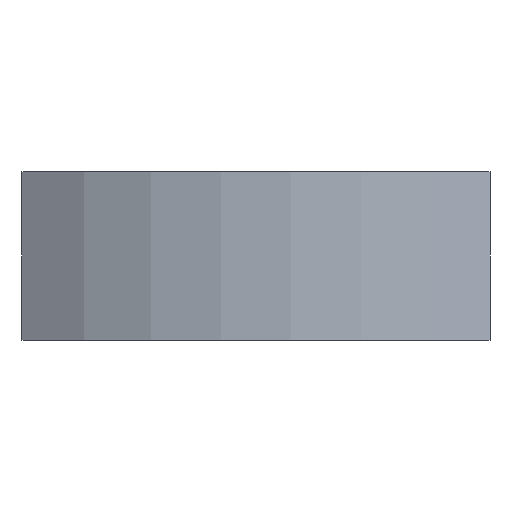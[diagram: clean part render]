
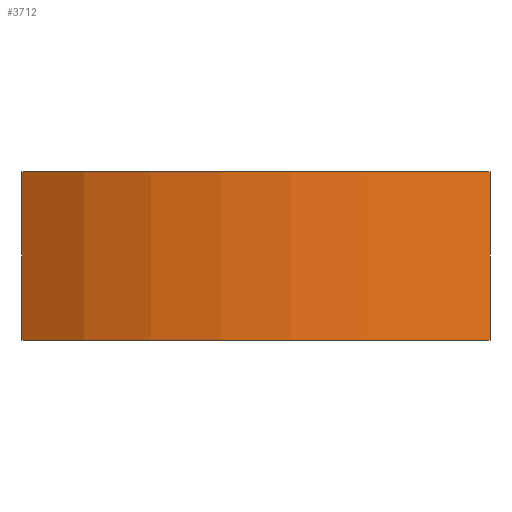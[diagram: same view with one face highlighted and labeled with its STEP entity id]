
A CAD part, left-side view. The second image highlights one B-rep face of the part: STEP entity #3712.
In plain terms, the highlighted cylindrical face has radius 22.5 mm (diameter 45 mm), a partial arc.
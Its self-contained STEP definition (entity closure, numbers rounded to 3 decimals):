
#14=CYLINDRICAL_SURFACE('',#3868,22.5);
#125=CIRCLE('',#3859,22.5);
#129=CIRCLE('',#3869,22.5);
#329=FACE_OUTER_BOUND('',#553,.T.);
#553=EDGE_LOOP('',(#3340,#3341,#3342,#3343));
#922=LINE('',#6629,#1285);
#923=LINE('',#6631,#1286);
#1285=VECTOR('',#4489,10.);
#1286=VECTOR('',#4490,10.);
#1790=VERTEX_POINT('',#6611);
#1791=VERTEX_POINT('',#6613);
#1795=VERTEX_POINT('',#6628);
#1796=VERTEX_POINT('',#6630);
#2312=EDGE_CURVE('',#1790,#1791,#125,.T.);
#2317=EDGE_CURVE('',#1791,#1795,#922,.T.);
#2318=EDGE_CURVE('',#1796,#1790,#923,.T.);
#2319=EDGE_CURVE('',#1795,#1796,#129,.T.);
#3340=ORIENTED_EDGE('',*,*,#2317,.F.);
#3341=ORIENTED_EDGE('',*,*,#2312,.F.);
#3342=ORIENTED_EDGE('',*,*,#2318,.F.);
#3343=ORIENTED_EDGE('',*,*,#2319,.F.);
#3712=ADVANCED_FACE('',(#329),#14,.T.);
#3859=AXIS2_PLACEMENT_3D('',#6614,#4468,#4469);
#3868=AXIS2_PLACEMENT_3D('',#6627,#4487,#4488);
#3869=AXIS2_PLACEMENT_3D('',#6632,#4491,#4492);
#4468=DIRECTION('center_axis',(0.,0.,1.));
#4469=DIRECTION('ref_axis',(-1.,0.,0.));
#4487=DIRECTION('center_axis',(0.,0.,-1.));
#4488=DIRECTION('ref_axis',(-1.,0.,0.));
#4489=DIRECTION('',(0.,0.,-1.));
#4490=DIRECTION('',(0.,0.,1.));
#4491=DIRECTION('center_axis',(0.,0.,-1.));
#4492=DIRECTION('ref_axis',(-1.,0.,0.));
#6611=CARTESIAN_POINT('',(-18.708,12.5,9.));
#6613=CARTESIAN_POINT('',(-18.708,-12.5,9.));
#6614=CARTESIAN_POINT('Origin',(0.,0.,9.));
#6627=CARTESIAN_POINT('Origin',(0.,0.,9.));
#6628=CARTESIAN_POINT('',(-18.708,-12.5,0.));
#6629=CARTESIAN_POINT('',(-18.708,-12.5,9.));
#6630=CARTESIAN_POINT('',(-18.708,12.5,0.));
#6631=CARTESIAN_POINT('',(-18.708,12.5,9.));
#6632=CARTESIAN_POINT('Origin',(0.,0.,0.));
